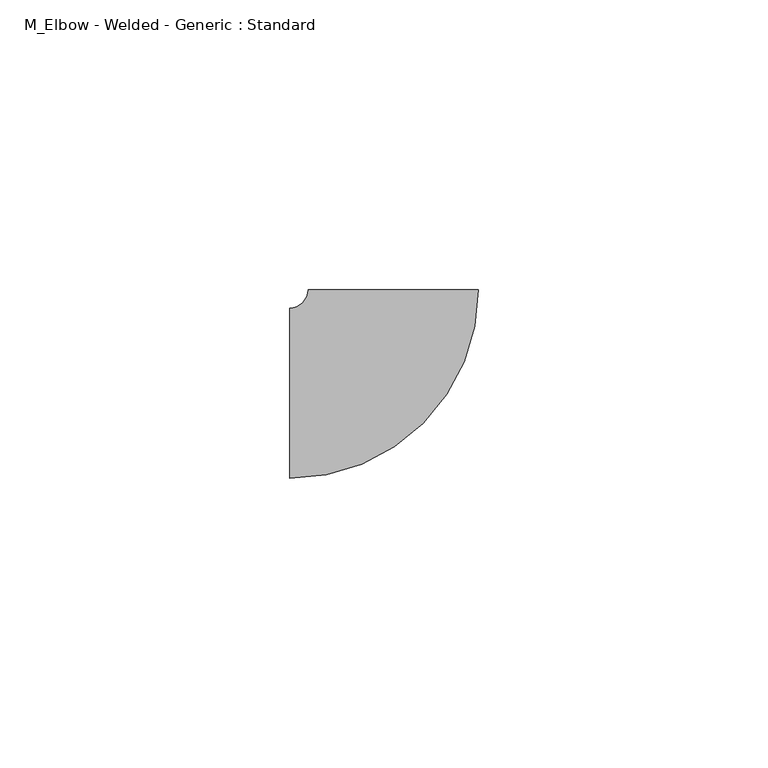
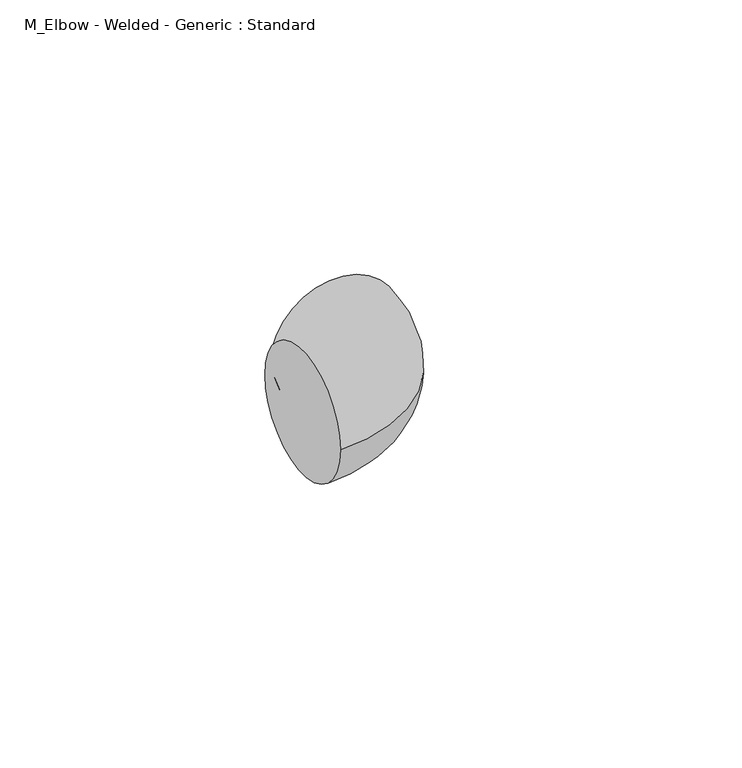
"""IFC4 building model written with IfcOpenShell, lengths in millimetres: pipe fitting geometry, M_Elbow - Welded - Generic : Standard."""

import ifcopenshell
import ifcopenshell.guid

model = None  # the IFC model being written
_history = None  # IfcOwnerHistory: only IFC2X3 demands one
_inside = {}  # id of a spatial element -> (the spatial element, [elements in it])
_under = {}  # id of a project, library or spatial element -> (it, [spatial elements below it])
_declared = {}  # id of a project -> (the project, [libraries it declares])
_typed = {}  # id of a type object -> (the type object, [elements of that type])
_made_of = {}  # id of a material, layer set ... -> (it, [elements and type objects made of it])


def new_model(schema):
    """Start an empty IFC model of exactly this schema.

    Asked for "IFC4X3", IfcOpenShell would pick the latest addendum, in which some entities
    have other attributes; the version numbers below select the first issue.
    IFC2X3 requires an IfcOwnerHistory on every rooted entity: one is made here for all.
    """
    global model, _history
    if schema == "IFC4X3":
        model = ifcopenshell.file(schema_version=(4, 3, 0, 0))
    else:
        model = ifcopenshell.file(schema=schema)
    _inside.clear()
    _under.clear()
    _declared.clear()
    _typed.clear()
    _made_of.clear()
    _history = None
    if model.schema == "IFC2X3":
        org = make("IfcOrganization", Name="unknown")
        user = make(
            "IfcPersonAndOrganization",
            ThePerson=make("IfcPerson", FamilyName="unknown"),
            TheOrganization=org,
        )
        app = make(
            "IfcApplication",
            ApplicationDeveloper=org,
            Version="unknown",
            ApplicationFullName="unknown",
            ApplicationIdentifier="unknown",
        )
        _history = make(
            "IfcOwnerHistory",
            OwningUser=user,
            OwningApplication=app,
            ChangeAction="ADDED",
            CreationDate=0,
        )
    return model


def make(cls, **values):
    """One entity of the class cls with the attributes given. An attribute that is None is left unset."""
    return model.create_entity(
        cls, **{name: value for name, value in values.items() if value is not None}
    )


def rooted(cls, **values):
    """An entity with a GlobalId (a new one), such as an element, a storey or a relation."""
    return make(cls, GlobalId=ifcopenshell.guid.new(), OwnerHistory=_history, **values)


def si_unit(unit_type, name, prefix=None):
    """IfcSIUnit, for example si_unit("LENGTHUNIT", "METRE", prefix="MILLI")."""
    return make("IfcSIUnit", UnitType=unit_type, Prefix=prefix, Name=name)


def assignment(units):
    """IfcUnitAssignment: the units of a project."""
    return None if units is None else make("IfcUnitAssignment", Units=units)


def point(xyz):
    """IfcCartesianPoint."""
    return None if xyz is None else make("IfcCartesianPoint", Coordinates=xyz)


def direction(xyz):
    """IfcDirection."""
    return None if xyz is None else make("IfcDirection", DirectionRatios=xyz)


def frame(location, z_axis=None, x_axis=None):
    """IfcAxis2Placement3D, a coordinate frame: its origin and axes. An axis left out is left unset."""
    return make(
        "IfcAxis2Placement3D",
        Location=point(location),
        Axis=direction(z_axis),
        RefDirection=direction(x_axis),
    )


def origin():
    """The frame at (0, 0, 0) with its axes left unset."""
    return frame((0.0, 0.0, 0.0))


def place(relative_to, where):
    """IfcLocalPlacement: puts the frame where relative to a parent placement (None: the world)."""
    return make(
        "IfcLocalPlacement", PlacementRelTo=relative_to, RelativePlacement=where
    )


def context(
    kind, dimensions, precision=None, world=None, true_north=None, identifier=None
):
    """IfcGeometricRepresentationContext, for example the 3D "Model" context."""
    return make(
        "IfcGeometricRepresentationContext",
        ContextIdentifier=identifier,
        ContextType=kind,
        CoordinateSpaceDimension=dimensions,
        Precision=precision,
        WorldCoordinateSystem=world,
        TrueNorth=true_north,
    )


def project(units=None, contexts=None):
    """IfcProject with its units and contexts."""
    return rooted(
        "IfcProject",
        Name="project",
        RepresentationContexts=contexts,
        UnitsInContext=assignment(units),
    )


def spatial(cls, under=None, at=None, **own):
    """A site, building, storey or space (cls), placed at a placement, below another one or the project."""
    s = rooted(cls, ObjectPlacement=at, **own)
    if under is not None:
        _under.setdefault(under.id(), (under, []))[1].append(s)
    return s


def circle_curve(where, radius):
    """IfcCircle in the frame where."""
    return make("IfcCircle", Position=where, Radius=radius)


def ellipse_curve(where, semi_axis1, semi_axis2):
    """IfcEllipse in the frame where."""
    return make(
        "IfcEllipse", Position=where, SemiAxis1=semi_axis1, SemiAxis2=semi_axis2
    )


def trimmed(basis, trim1, trim2, sense, master):
    """IfcTrimmedCurve: the piece of a basis curve between two trims."""
    return make(
        "IfcTrimmedCurve",
        BasisCurve=basis,
        Trim1=trim1,
        Trim2=trim2,
        SenseAgreement=sense,
        MasterRepresentation=master,
    )


def shape(context_of_items, identifier, shape_type, items):
    """IfcShapeRepresentation: the items that make up one representation, for example the "Body"."""
    return make(
        "IfcShapeRepresentation",
        ContextOfItems=context_of_items,
        RepresentationIdentifier=identifier,
        RepresentationType=shape_type,
        Items=items,
    )


def source(mapping_origin, context_of_items, identifier, shape_type, items):
    """IfcRepresentationMap: a shape defined once, which mapped items show again and again."""
    return make(
        "IfcRepresentationMap",
        MappingOrigin=mapping_origin,
        MappedRepresentation=shape(context_of_items, identifier, shape_type, items),
    )


def transform(
    local_origin,
    x_axis=None,
    y_axis=None,
    z_axis=None,
    scale=None,
    scale2=None,
    scale3=None,
    uniform=True,
):
    """IfcCartesianTransformationOperator3D, or its non-uniform kind. x_axis, y_axis, z_axis: its Axis1, 2, 3."""
    if uniform:
        return make(
            "IfcCartesianTransformationOperator3D",
            Axis1=direction(x_axis),
            Axis2=direction(y_axis),
            LocalOrigin=point(local_origin),
            Scale=scale,
            Axis3=direction(z_axis),
        )
    return make(
        "IfcCartesianTransformationOperator3DnonUniform",
        Axis1=direction(x_axis),
        Axis2=direction(y_axis),
        LocalOrigin=point(local_origin),
        Scale=scale,
        Axis3=direction(z_axis),
        Scale2=scale2,
        Scale3=scale3,
    )


def mapped(mapping_source, mapping_target):
    """IfcMappedItem: shows the shape of a source again, moved by a transform."""
    return make(
        "IfcMappedItem", MappingSource=mapping_source, MappingTarget=mapping_target
    )


def made_of(thing, what):
    """Note that an element or type object is made of a material, layer set ...; save() writes the relation."""
    if what is not None:
        _made_of.setdefault(what.id(), (what, []))[1].append(thing)
    return thing


def element(
    cls,
    number,
    at=None,
    inside=None,
    cuts=None,
    type_object=None,
    material=None,
    context=None,
    identifier="Body",
    shape_type=None,
    held_by="IfcProductDefinitionShape",
    body=None,
    shapes=None,
    **own,
):
    """One element of the class cls, such as IfcWall. Its Tag is "e" and its number.

    at: its placement. inside: the storey or other place that contains it. cuts: it is an
    opening in that element (IfcRelVoidsElement). A single representation is given by context,
    identifier, shape_type and body (its items); several are given by shapes. held_by: the class
    of the entity that holds the representations. save() writes the other relations.
    """
    e = rooted(cls, Tag="e%d" % number, ObjectPlacement=at, **own)
    if body is not None:
        shapes = [shape(context, identifier, shape_type, body)]
    if shapes is not None:
        e.Representation = make(held_by, Representations=shapes)
    if inside is not None:
        _inside.setdefault(inside.id(), (inside, []))[1].append(e)
    if cuts is not None:
        rooted(
            "IfcRelVoidsElement", RelatingBuildingElement=cuts, RelatedOpeningElement=e
        )
    if type_object is not None:
        _typed.setdefault(type_object.id(), (type_object, []))[1].append(e)
    return made_of(e, material)


def aggregate(whole, parts):
    """IfcRelAggregates: a whole, such as a stair, and the parts it consists of."""
    return rooted("IfcRelAggregates", RelatingObject=whole, RelatedObjects=parts)


def save(model, path):
    """Write the relations noted so far, then the file.

    IfcRelAggregates (storeys below a building ...), IfcRelContainedInSpatialStructure (elements
    in a storey), IfcRelDefinesByType, IfcRelAssociatesMaterial and IfcRelDeclares: one each for
    every whole, place, type object, material and project.
    """
    for whole, parts in _under.values():
        aggregate(whole, parts)
    for where, things in _inside.values():
        rooted(
            "IfcRelContainedInSpatialStructure",
            RelatedElements=things,
            RelatingStructure=where,
        )
    for kind, things in _typed.values():
        rooted("IfcRelDefinesByType", RelatedObjects=things, RelatingType=kind)
    for what, things in _made_of.values():
        rooted("IfcRelAssociatesMaterial", RelatedObjects=things, RelatingMaterial=what)
    for by, libraries in _declared.values():
        rooted("IfcRelDeclares", RelatingContext=by, RelatedDefinitions=libraries)
    model.write(path)


def plane_surface(at):
    """IfcPlane: the flat surface through the origin of the frame at, square to its z axis."""
    return make("IfcPlane", Position=at)


def revolved_surface(curve, axis_point, axis_direction):
    """IfcSurfaceOfRevolution: the curve turned about the line through axis_point along axis_direction."""
    return make(
        "IfcSurfaceOfRevolution",
        SweptCurve=make("IfcArbitraryOpenProfileDef", ProfileType="CURVE", Curve=curve),
        AxisPosition=make("IfcAxis1Placement", Location=point(axis_point), Axis=direction(axis_direction)),
    )


def advanced_brep(points, edges, surfaces, faces):
    """IfcAdvancedBrep: a solid bounded by faces that lie on surfaces and meet in shared edges.

    An edge is (start, end): straight between two places in points (the first is 0);
    or (start, end, curve); or (start, end, curve, False) where it runs against its curve.
    A face is (place in surfaces, loops), or (place, loops, False) where it looks against
    its surface's normal. A loop lists edges by number (the first is 1), with a minus sign
    where the edge is run from its end to its start. The first loop is the outer one.
    """
    corners = [point(p) for p in points]
    vertices = [make("IfcVertexPoint", VertexGeometry=c) for c in corners]
    made = []
    for start, end, *more in edges:
        made.append(
            make(
                "IfcEdgeCurve",
                EdgeStart=vertices[start],
                EdgeEnd=vertices[end],
                EdgeGeometry=more[0] if more else make("IfcPolyline", Points=[corners[start], corners[end]]),
                SameSense=more[1] if len(more) > 1 else True,
            )
        )
    hull = []
    for where, loops, *sense in faces:
        bounds = []
        for j, loop in enumerate(loops):
            ring = [make("IfcOrientedEdge", EdgeElement=made[abs(k) - 1], Orientation=k > 0) for k in loop]
            bounds.append(
                make(
                    "IfcFaceOuterBound" if j == 0 else "IfcFaceBound",
                    Bound=make("IfcEdgeLoop", EdgeList=ring),
                    Orientation=True,
                )
            )
        hull.append(make("IfcAdvancedFace", Bounds=bounds, FaceSurface=surfaces[where], SameSense=sense[0] if sense else True))
    return make("IfcAdvancedBrep", Outer=make("IfcClosedShell", CfsFaces=hull))


def m_elbow_welded_generic_standard_c3fc6815(model_context):
    return source(origin(), model_context, "Body", "AdvancedBrep", [
        advanced_brep(
        [(-17.9089844, -14.7089844, 0.0), (-17.9089844, 14.7089844, 0.0), (14.7089844, 17.9089844, 0.0), (-14.7089844, 17.9089844, 0.0)],
        [
            (0, 1, circle_curve(frame((-17.9089844, 0.0, 0.0), z_axis=(-1.0, 0.0, 0.0), x_axis=(0.0, 1.0, 0.0)), 14.7089844)),
            (1, 0, circle_curve(frame((-17.9089844, 0.0, 0.0), z_axis=(-1.0, 0.0, 0.0), x_axis=(0.0, 1.0, 0.0)), 14.7089844)),
            (2, 3, circle_curve(frame((0.0, 17.9089844, 0.0), z_axis=(0.0, 1.0, 0.0), x_axis=(-1.0, 0.0, 0.0)), 14.7089844)),
            (3, 2, circle_curve(frame((0.0, 17.9089844, 0.0), z_axis=(0.0, 1.0, 0.0), x_axis=(-1.0, 0.0, 0.0)), 14.7089844)),
            (3, 1, circle_curve(frame((-17.9089844, 17.9089844, 0.0), z_axis=(0.0, 0.0, -1.0), x_axis=(0.0, -1.0, 0.0)), 3.2)),
            (0, 2, circle_curve(frame((-17.9089844, 17.9089844, 0.0), z_axis=(0.0, 0.0, 1.0), x_axis=(0.0, -1.0, 0.0)), 32.6179688)),
        ],
        [
            plane_surface(frame((-17.9089844, 0.0, 0.0), z_axis=(-1.0, 0.0, 0.0), x_axis=(0.0, 0.0, 1.0))),
            plane_surface(frame((0.0, 17.9089844, 0.0), z_axis=(0.0, 1.0, 0.0), x_axis=(0.0, 0.0, 1.0))),
            revolved_surface(trimmed(ellipse_curve(frame((-17.9089844, 0.0, 0.0), z_axis=(-1.0, 0.0, 0.0), x_axis=(0.0, 1.0, 0.0)), 14.7089844, 14.7089844), [point((-17.9089844, -14.7089844, 0.0))], [point((-17.9089844, 14.7089844, 0.0))], True, "CARTESIAN"), (-17.9089844, 17.9089844, 0.0), (0.0, 0.0, 1.0)),
            revolved_surface(trimmed(ellipse_curve(frame((-17.9089844, 0.0, 0.0), z_axis=(-1.0, 0.0, 0.0), x_axis=(0.0, 1.0, 0.0)), 14.7089844, 14.7089844), [point((-17.9089844, 14.7089844, 0.0))], [point((-17.9089844, -14.7089844, 0.0))], True, "CARTESIAN"), (-17.9089844, 17.9089844, 0.0), (0.0, 0.0, 1.0)),
        ],
        [
            (0, [[1, 2]]),
            (1, [[3, 4]]),
            (2, [[5, -1, 6, -4]]),
            (3, [[-6, -2, -5, -3]]),
        ],
    ),
    ])


if __name__ == "__main__":
    model = new_model("IFC4")
    model_context = context("Model", 3, world=origin())
    ifc_project = project(units=[si_unit("LENGTHUNIT", "METRE", prefix="MILLI")], contexts=[model_context])
    site = spatial("IfcSite", under=ifc_project)
    building = spatial("IfcBuilding", under=site)
    placement = place(None, origin())
    m_elbow_welded_generic_standard_shape = m_elbow_welded_generic_standard_c3fc6815(model_context)
    element("IfcPipeFitting", 1, ObjectType="M_Elbow - Welded - Generic : Standard", at=placement, inside=building, context=model_context, shape_type="MappedRepresentation", body=[
        mapped(m_elbow_welded_generic_standard_shape, transform((0.0, 0.0, 0.0), x_axis=(1.0, 0.0, 0.0), y_axis=(0.0, 1.0, 0.0), z_axis=(0.0, 0.0, 1.0))),
    ])
    save(model, "model.ifc")
